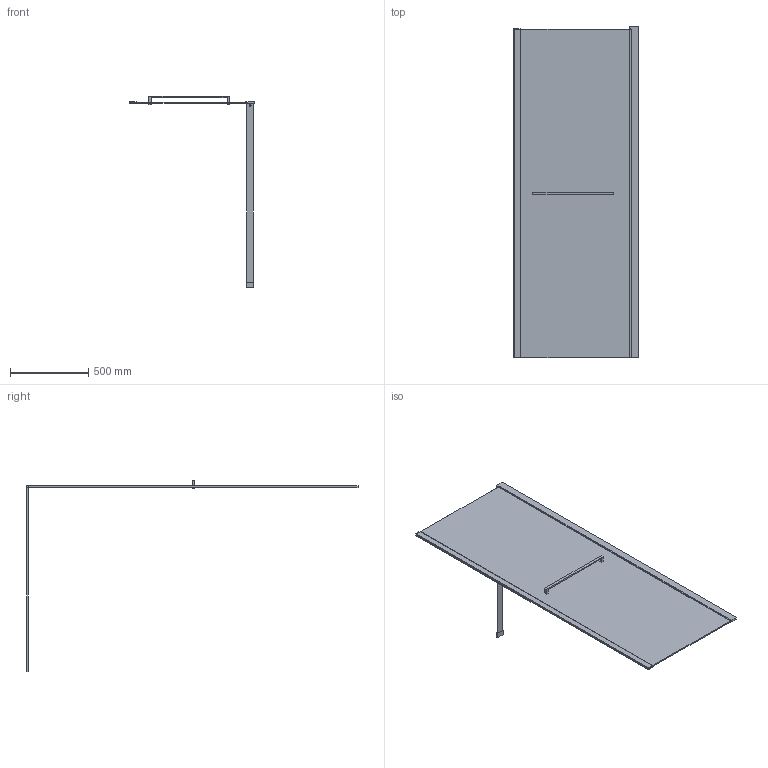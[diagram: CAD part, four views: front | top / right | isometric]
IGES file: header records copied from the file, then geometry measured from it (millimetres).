
Start section: SolidWorks IGES file using analytic representation for surfaces
Global section: file name: D:\Users\M.Szymanski\Desktop\Kabiny\PI_ALTIIa\PI_ALTIIa_80_wspornik poziomy_K3D.IGS; native system: SolidWorks 2011; preprocessor: SolidWorks 2011; author: M.Szymanski; date: 181002.135949; units: millimetre
Bounding box: 796.4 x 2124.7 x 1223.1 mm (x, y, z)
Surface area: 4026558.3 mm2 (no closed solid volume)
Topology: 0 solids, 0 shells, 56 faces, 367 edges, 477 vertices
Faces by surface type: bspline 52, revolution 4
